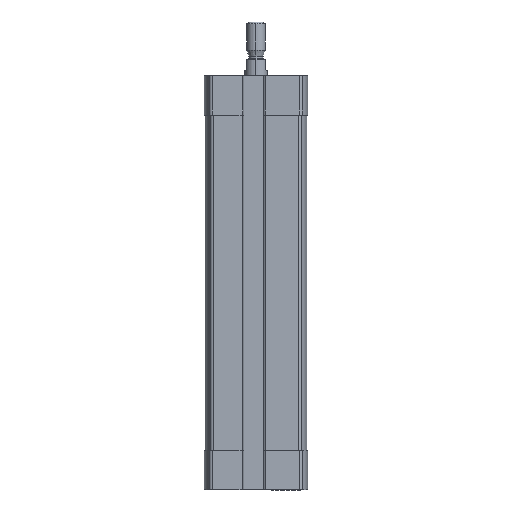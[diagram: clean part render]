
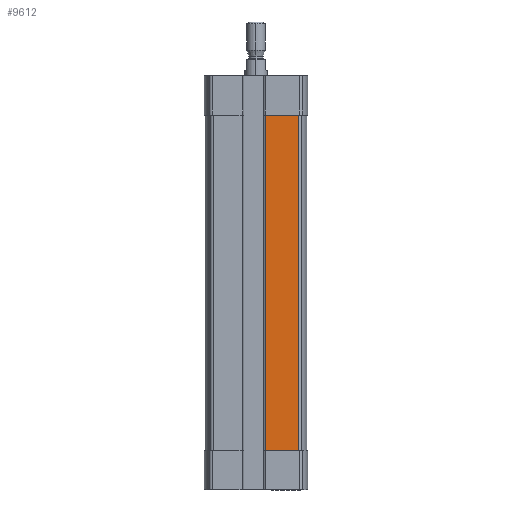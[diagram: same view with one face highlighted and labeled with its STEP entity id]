
A CAD part, left-side view. The second image highlights one B-rep face of the part: STEP entity #9612.
In plain terms, the highlighted planar face has unit normal (-1, 0, 0).
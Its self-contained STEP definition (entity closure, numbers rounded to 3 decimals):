
#424 = DIRECTION ( 'NONE',  ( 0., 0., 1. ) ) ;
#480 = VERTEX_POINT ( 'NONE', #10716 ) ;
#803 = CARTESIAN_POINT ( 'NONE',  ( -13.5, -2.5, -99.5 ) ) ;
#999 = EDGE_LOOP ( 'NONE', ( #8297, #9013, #10327, #6174 ) ) ;
#1032 = EDGE_CURVE ( 'NONE', #480, #9598, #11265, .T. ) ;
#2468 = VERTEX_POINT ( 'NONE', #4192 ) ;
#2533 = CARTESIAN_POINT ( 'NONE',  ( -13.5, -2.5, -99.5 ) ) ;
#2798 = VECTOR ( 'NONE', #424, 1000. ) ;
#3344 = LINE ( 'NONE', #9795, #8119 ) ;
#3429 = DIRECTION ( 'NONE',  ( 0., 0., 1. ) ) ;
#3596 = EDGE_CURVE ( 'NONE', #9598, #2468, #7846, .T. ) ;
#3858 = VECTOR ( 'NONE', #7968, 1000. ) ;
#3995 = CARTESIAN_POINT ( 'NONE',  ( -13.5, -11.329, -99.5 ) ) ;
#4192 = CARTESIAN_POINT ( 'NONE',  ( -13.5, -11.329, -10.5 ) ) ;
#4439 = DIRECTION ( 'NONE',  ( 0., 1., 0. ) ) ;
#4715 = CARTESIAN_POINT ( 'NONE',  ( -13.5, -2.5, -10.5 ) ) ;
#5325 = DIRECTION ( 'NONE',  ( 0., 0., -1. ) ) ;
#6174 = ORIENTED_EDGE ( 'NONE', *, *, #8084, .T. ) ;
#6568 = LINE ( 'NONE', #10697, #8669 ) ;
#7526 = VERTEX_POINT ( 'NONE', #4715 ) ;
#7846 = LINE ( 'NONE', #3995, #2798 ) ;
#7968 = DIRECTION ( 'NONE',  ( 0., -1., 0. ) ) ;
#8084 = EDGE_CURVE ( 'NONE', #7526, #480, #6568, .T. ) ;
#8119 = VECTOR ( 'NONE', #4439, 1000. ) ;
#8297 = ORIENTED_EDGE ( 'NONE', *, *, #1032, .T. ) ;
#8669 = VECTOR ( 'NONE', #5325, 1000. ) ;
#8757 = PLANE ( 'NONE',  #11406 ) ;
#8794 = DIRECTION ( 'NONE',  ( -1., 0., 0. ) ) ;
#9013 = ORIENTED_EDGE ( 'NONE', *, *, #3596, .T. ) ;
#9111 = FACE_OUTER_BOUND ( 'NONE', #999, .T. ) ;
#9598 = VERTEX_POINT ( 'NONE', #9634 ) ;
#9612 = ADVANCED_FACE ( 'NONE', ( #9111 ), #8757, .T. ) ;
#9634 = CARTESIAN_POINT ( 'NONE',  ( -13.5, -11.329, -99.5 ) ) ;
#9795 = CARTESIAN_POINT ( 'NONE',  ( -13.5, 0., -10.5 ) ) ;
#10327 = ORIENTED_EDGE ( 'NONE', *, *, #10479, .T. ) ;
#10479 = EDGE_CURVE ( 'NONE', #2468, #7526, #3344, .T. ) ;
#10697 = CARTESIAN_POINT ( 'NONE',  ( -13.5, -2.5, -99.5 ) ) ;
#10716 = CARTESIAN_POINT ( 'NONE',  ( -13.5, -2.5, -99.5 ) ) ;
#11265 = LINE ( 'NONE', #803, #3858 ) ;
#11406 = AXIS2_PLACEMENT_3D ( 'NONE', #2533, #8794, #3429 ) ;
